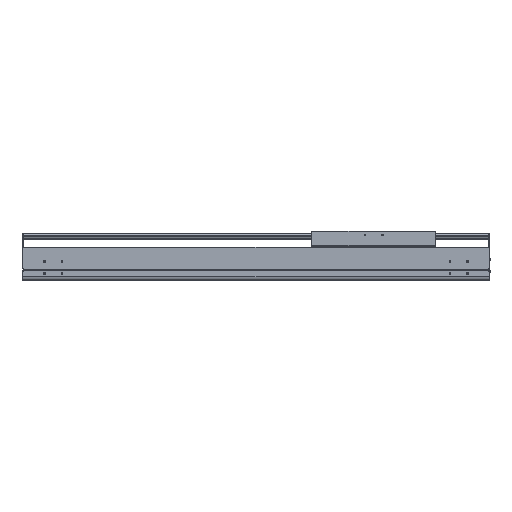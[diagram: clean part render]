
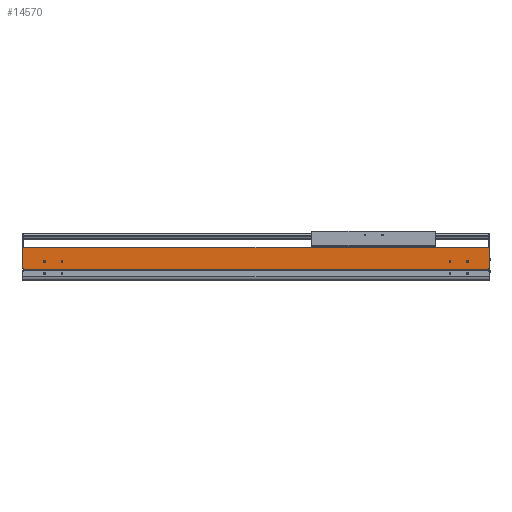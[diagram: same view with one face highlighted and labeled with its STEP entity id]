
A CAD part, top view. The second image highlights one B-rep face of the part: STEP entity #14570.
In plain terms, the highlighted planar face has unit normal (0, 0, 1).
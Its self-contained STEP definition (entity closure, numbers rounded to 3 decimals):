
#1832=DIRECTION('',(0.,-1.,0.));
#1833=VECTOR('',#1832,2.55);
#1834=CARTESIAN_POINT('',(0.,34.65,107.));
#1835=LINE('',#1834,#1833);
#2315=DIRECTION('',(1.,0.,0.));
#2316=VECTOR('',#2315,2.);
#2317=CARTESIAN_POINT('',(-1321.,34.65,107.));
#2318=LINE('',#2317,#2316);
#2319=CARTESIAN_POINT('',(-59.5,54.,107.));
#2320=DIRECTION('',(0.,0.,-1.));
#2321=DIRECTION('',(1.,0.,0.));
#2322=AXIS2_PLACEMENT_3D('',#2319,#2320,#2321);
#2324=CARTESIAN_POINT('',(-59.5,54.,107.));
#2325=DIRECTION('',(0.,0.,-1.));
#2326=DIRECTION('',(-1.,0.,0.));
#2327=AXIS2_PLACEMENT_3D('',#2324,#2325,#2326);
#2329=CARTESIAN_POINT('',(-109.5,54.,107.));
#2330=DIRECTION('',(0.,0.,-1.));
#2331=DIRECTION('',(1.,0.,0.));
#2332=AXIS2_PLACEMENT_3D('',#2329,#2330,#2331);
#2334=CARTESIAN_POINT('',(-109.5,54.,107.));
#2335=DIRECTION('',(0.,0.,-1.));
#2336=DIRECTION('',(-1.,0.,0.));
#2337=AXIS2_PLACEMENT_3D('',#2334,#2335,#2336);
#2339=CARTESIAN_POINT('',(-1259.5,54.,107.));
#2340=DIRECTION('',(0.,0.,-1.));
#2341=DIRECTION('',(1.,0.,0.));
#2342=AXIS2_PLACEMENT_3D('',#2339,#2340,#2341);
#2344=CARTESIAN_POINT('',(-1259.5,54.,107.));
#2345=DIRECTION('',(0.,0.,-1.));
#2346=DIRECTION('',(-1.,0.,0.));
#2347=AXIS2_PLACEMENT_3D('',#2344,#2345,#2346);
#2349=CARTESIAN_POINT('',(-1209.5,54.,107.));
#2350=DIRECTION('',(0.,0.,-1.));
#2351=DIRECTION('',(1.,0.,0.));
#2352=AXIS2_PLACEMENT_3D('',#2349,#2350,#2351);
#2354=CARTESIAN_POINT('',(-1209.5,54.,107.));
#2355=DIRECTION('',(0.,0.,-1.));
#2356=DIRECTION('',(-1.,0.,0.));
#2357=AXIS2_PLACEMENT_3D('',#2354,#2355,#2356);
#2359=DIRECTION('',(0.,-1.,0.));
#2360=VECTOR('',#2359,2.55);
#2361=CARTESIAN_POINT('',(-1319.,34.65,107.));
#2362=LINE('',#2361,#2360);
#2363=DIRECTION('',(0.,-1.,0.));
#2364=VECTOR('',#2363,58.85);
#2365=CARTESIAN_POINT('',(-1321.,93.5,107.));
#2366=LINE('',#2365,#2364);
#2367=DIRECTION('',(0.,1.,0.));
#2368=VECTOR('',#2367,58.85);
#2369=CARTESIAN_POINT('',(2.,34.65,107.));
#2370=LINE('',#2369,#2368);
#2371=DIRECTION('',(1.,0.,0.));
#2372=VECTOR('',#2371,1319.);
#2373=CARTESIAN_POINT('',(-1319.,32.1,107.));
#2374=LINE('',#2373,#2372);
#2479=DIRECTION('',(-1.,0.,0.));
#2480=VECTOR('',#2479,1323.);
#2481=CARTESIAN_POINT('',(2.,93.5,107.));
#2482=LINE('',#2481,#2480);
#7863=DIRECTION('',(1.,0.,0.));
#7864=VECTOR('',#7863,2.);
#7865=CARTESIAN_POINT('',(0.,34.65,107.));
#7866=LINE('',#7865,#7864);
#9025=CARTESIAN_POINT('',(-1321.,34.65,107.));
#9026=VERTEX_POINT('',#9025);
#9027=CARTESIAN_POINT('',(-1321.,93.5,107.));
#9028=VERTEX_POINT('',#9027);
#9257=CARTESIAN_POINT('',(-1319.,32.1,107.));
#9258=VERTEX_POINT('',#9257);
#9549=CARTESIAN_POINT('',(0.,32.1,107.));
#9550=VERTEX_POINT('',#9549);
#9551=CARTESIAN_POINT('',(-57.,54.,107.));
#9552=CARTESIAN_POINT('',(-62.,54.,107.));
#9553=VERTEX_POINT('',#9551);
#9554=VERTEX_POINT('',#9552);
#9555=CARTESIAN_POINT('',(-107.,54.,107.));
#9556=CARTESIAN_POINT('',(-112.,54.,107.));
#9557=VERTEX_POINT('',#9555);
#9558=VERTEX_POINT('',#9556);
#9559=CARTESIAN_POINT('',(-1257.,54.,107.));
#9560=CARTESIAN_POINT('',(-1262.,54.,107.));
#9561=VERTEX_POINT('',#9559);
#9562=VERTEX_POINT('',#9560);
#9563=CARTESIAN_POINT('',(-1207.,54.,107.));
#9564=CARTESIAN_POINT('',(-1212.,54.,107.));
#9565=VERTEX_POINT('',#9563);
#9566=VERTEX_POINT('',#9564);
#10394=CARTESIAN_POINT('',(2.,34.65,107.));
#10395=VERTEX_POINT('',#10394);
#10396=CARTESIAN_POINT('',(2.,93.5,107.));
#10397=VERTEX_POINT('',#10396);
#10848=CARTESIAN_POINT('',(0.,34.65,107.));
#10849=VERTEX_POINT('',#10848);
#10928=CARTESIAN_POINT('',(-1319.,34.65,107.));
#10929=VERTEX_POINT('',#10928);
#14528=CARTESIAN_POINT('',(-659.5,62.8,107.));
#14529=DIRECTION('',(0.,0.,1.));
#14530=DIRECTION('',(0.,-1.,0.));
#14531=AXIS2_PLACEMENT_3D('',#14528,#14529,#14530);
#14532=PLANE('',#14531);
#14533=ORIENTED_EDGE('',*,*,#12014,.F.);
#14534=ORIENTED_EDGE('',*,*,#14523,.F.);
#14535=ORIENTED_EDGE('',*,*,#12643,.F.);
#14537=ORIENTED_EDGE('',*,*,#14536,.F.);
#14538=ORIENTED_EDGE('',*,*,#11751,.F.);
#14540=ORIENTED_EDGE('',*,*,#14539,.F.);
#14541=ORIENTED_EDGE('',*,*,#14131,.T.);
#14543=ORIENTED_EDGE('',*,*,#14542,.F.);
#14544=EDGE_LOOP('',(#14533,#14534,#14535,#14537,#14538,#14540,#14541,#14543));
#14545=FACE_OUTER_BOUND('',#14544,.F.);
#14547=ORIENTED_EDGE('',*,*,#14546,.F.);
#14549=ORIENTED_EDGE('',*,*,#14548,.F.);
#14550=EDGE_LOOP('',(#14547,#14549));
#14551=FACE_BOUND('',#14550,.F.);
#14553=ORIENTED_EDGE('',*,*,#14552,.F.);
#14555=ORIENTED_EDGE('',*,*,#14554,.F.);
#14556=EDGE_LOOP('',(#14553,#14555));
#14557=FACE_BOUND('',#14556,.F.);
#14559=ORIENTED_EDGE('',*,*,#14558,.F.);
#14561=ORIENTED_EDGE('',*,*,#14560,.F.);
#14562=EDGE_LOOP('',(#14559,#14561));
#14563=FACE_BOUND('',#14562,.F.);
#14565=ORIENTED_EDGE('',*,*,#14564,.F.);
#14567=ORIENTED_EDGE('',*,*,#14566,.F.);
#14568=EDGE_LOOP('',(#14565,#14567));
#14569=FACE_BOUND('',#14568,.F.);
#14570=ADVANCED_FACE('',(#14545,#14551,#14557,#14563,#14569),#14532,.T.);
#2323=CIRCLE('',#2322,2.5);
#2328=CIRCLE('',#2327,2.5);
#2333=CIRCLE('',#2332,2.5);
#2338=CIRCLE('',#2337,2.5);
#2343=CIRCLE('',#2342,2.5);
#2348=CIRCLE('',#2347,2.5);
#2353=CIRCLE('',#2352,2.5);
#2358=CIRCLE('',#2357,2.5);
#11751=EDGE_CURVE('',#10395,#10397,#2370,.T.);
#12014=EDGE_CURVE('',#10929,#9258,#2362,.T.);
#12643=EDGE_CURVE('',#9028,#9026,#2366,.T.);
#14131=EDGE_CURVE('',#10849,#9550,#1835,.T.);
#14523=EDGE_CURVE('',#9026,#10929,#2318,.T.);
#14536=EDGE_CURVE('',#10397,#9028,#2482,.T.);
#14539=EDGE_CURVE('',#10849,#10395,#7866,.T.);
#14542=EDGE_CURVE('',#9258,#9550,#2374,.T.);
#14546=EDGE_CURVE('',#9557,#9558,#2333,.T.);
#14548=EDGE_CURVE('',#9558,#9557,#2338,.T.);
#14552=EDGE_CURVE('',#9561,#9562,#2343,.T.);
#14554=EDGE_CURVE('',#9562,#9561,#2348,.T.);
#14558=EDGE_CURVE('',#9565,#9566,#2353,.T.);
#14560=EDGE_CURVE('',#9566,#9565,#2358,.T.);
#14564=EDGE_CURVE('',#9553,#9554,#2323,.T.);
#14566=EDGE_CURVE('',#9554,#9553,#2328,.T.);
